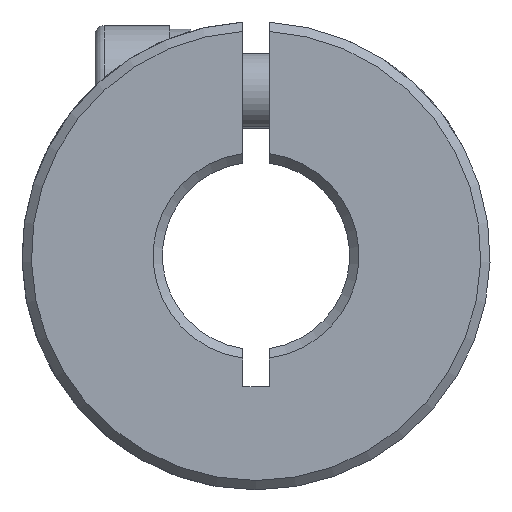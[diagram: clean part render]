
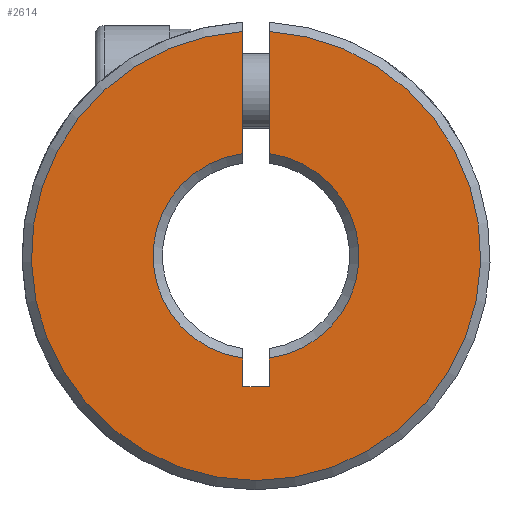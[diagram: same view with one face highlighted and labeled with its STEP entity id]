
A CAD part, front view. The second image highlights one B-rep face of the part: STEP entity #2614.
In plain terms, the highlighted planar face has unit normal (0, -1, 0).
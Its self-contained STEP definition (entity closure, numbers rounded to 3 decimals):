
#89 = EDGE_CURVE ( 'NONE', #1196, #2390, #2652, .T. ) ;
#148 = LINE ( 'NONE', #2956, #2945 ) ;
#192 = FACE_OUTER_BOUND ( 'NONE', #3470, .T. ) ;
#320 = CIRCLE ( 'NONE', #834, 12. ) ;
#327 = CARTESIAN_POINT ( 'NONE',  ( 0., 0.25, 0. ) ) ;
#463 = ORIENTED_EDGE ( 'NONE', *, *, #3365, .T. ) ;
#467 = CARTESIAN_POINT ( 'NONE',  ( 0.7, 0.25, -7. ) ) ;
#571 = DIRECTION ( 'NONE',  ( 0., 0., 1. ) ) ;
#594 = DIRECTION ( 'NONE',  ( 0., 0., -1. ) ) ;
#682 = CARTESIAN_POINT ( 'NONE',  ( 12.5, 0.25, -50. ) ) ;
#742 = ORIENTED_EDGE ( 'NONE', *, *, #89, .F. ) ;
#757 = VECTOR ( 'NONE', #2947, 1000. ) ;
#834 = AXIS2_PLACEMENT_3D ( 'NONE', #3018, #2448, #571 ) ;
#835 = ORIENTED_EDGE ( 'NONE', *, *, #2128, .F. ) ;
#910 = DIRECTION ( 'NONE',  ( 0., 0., 1. ) ) ;
#938 = VECTOR ( 'NONE', #910, 1000. ) ;
#949 = LINE ( 'NONE', #1568, #3437 ) ;
#1088 = DIRECTION ( 'NONE',  ( 0., 0., 1. ) ) ;
#1109 = DIRECTION ( 'NONE',  ( 0., 0., 1. ) ) ;
#1134 = CARTESIAN_POINT ( 'NONE',  ( -0.7, 0.25, -7. ) ) ;
#1156 = EDGE_CURVE ( 'NONE', #3098, #3337, #1574, .T. ) ;
#1180 = ORIENTED_EDGE ( 'NONE', *, *, #1156, .F. ) ;
#1196 = VERTEX_POINT ( 'NONE', #1335 ) ;
#1205 = VECTOR ( 'NONE', #594, 1000. ) ;
#1279 = ORIENTED_EDGE ( 'NONE', *, *, #2464, .F. ) ;
#1335 = CARTESIAN_POINT ( 'NONE',  ( 0.7, 0.25, 5.455 ) ) ;
#1410 = DIRECTION ( 'NONE',  ( 0., 1., 0. ) ) ;
#1420 = AXIS2_PLACEMENT_3D ( 'NONE', #327, #1689, #1109 ) ;
#1538 = DIRECTION ( 'NONE',  ( 0., 1., 0. ) ) ;
#1568 = CARTESIAN_POINT ( 'NONE',  ( 0.7, 0.25, -7. ) ) ;
#1574 = LINE ( 'NONE', #2137, #757 ) ;
#1619 = CARTESIAN_POINT ( 'NONE',  ( -0.7, 0.25, 5.455 ) ) ;
#1689 = DIRECTION ( 'NONE',  ( 0., 1., 0. ) ) ;
#1735 = CARTESIAN_POINT ( 'NONE',  ( -0.7, 0.25, 11.98 ) ) ;
#1779 = ORIENTED_EDGE ( 'NONE', *, *, #3385, .T. ) ;
#1844 = DIRECTION ( 'NONE',  ( 0., 0., 1. ) ) ;
#1849 = DIRECTION ( 'NONE',  ( 1., 0., 0. ) ) ;
#1962 = CARTESIAN_POINT ( 'NONE',  ( -0.7, 0.25, -7. ) ) ;
#2023 = CARTESIAN_POINT ( 'NONE',  ( 0.7, 0.25, -7. ) ) ;
#2128 = EDGE_CURVE ( 'NONE', #3337, #3280, #949, .T. ) ;
#2137 = CARTESIAN_POINT ( 'NONE',  ( -0.7, 0.25, -7. ) ) ;
#2206 = CARTESIAN_POINT ( 'NONE',  ( 0., 0.25, 0. ) ) ;
#2329 = EDGE_CURVE ( 'NONE', #3280, #3480, #148, .T. ) ;
#2353 = CIRCLE ( 'NONE', #1420, 5.5 ) ;
#2390 = VERTEX_POINT ( 'NONE', #2462 ) ;
#2448 = DIRECTION ( 'NONE',  ( 0., -1., 0. ) ) ;
#2462 = CARTESIAN_POINT ( 'NONE',  ( 0.7, 0.25, 11.98 ) ) ;
#2464 = EDGE_CURVE ( 'NONE', #3431, #2821, #2907, .T. ) ;
#2521 = CARTESIAN_POINT ( 'NONE',  ( 0.7, 0.25, -5.455 ) ) ;
#2614 = ADVANCED_FACE ( 'NONE', ( #192 ), #3432, .F. ) ;
#2652 = LINE ( 'NONE', #2023, #938 ) ;
#2663 = AXIS2_PLACEMENT_3D ( 'NONE', #2206, #1410, #2774 ) ;
#2687 = AXIS2_PLACEMENT_3D ( 'NONE', #682, #1538, #1844 ) ;
#2692 = ORIENTED_EDGE ( 'NONE', *, *, #2868, .T. ) ;
#2701 = CIRCLE ( 'NONE', #2663, 5.5 ) ;
#2774 = DIRECTION ( 'NONE',  ( 0., 0., 1. ) ) ;
#2821 = VERTEX_POINT ( 'NONE', #1619 ) ;
#2868 = EDGE_CURVE ( 'NONE', #3431, #2390, #320, .T. ) ;
#2907 = LINE ( 'NONE', #1962, #1205 ) ;
#2945 = VECTOR ( 'NONE', #1088, 1000. ) ;
#2947 = DIRECTION ( 'NONE',  ( 0., 0., -1. ) ) ;
#2956 = CARTESIAN_POINT ( 'NONE',  ( 0.7, 0.25, -7. ) ) ;
#3018 = CARTESIAN_POINT ( 'NONE',  ( 0., 0.25, 0. ) ) ;
#3062 = ORIENTED_EDGE ( 'NONE', *, *, #2329, .F. ) ;
#3098 = VERTEX_POINT ( 'NONE', #3374 ) ;
#3280 = VERTEX_POINT ( 'NONE', #467 ) ;
#3337 = VERTEX_POINT ( 'NONE', #1134 ) ;
#3365 = EDGE_CURVE ( 'NONE', #3098, #2821, #2701, .T. ) ;
#3374 = CARTESIAN_POINT ( 'NONE',  ( -0.7, 0.25, -5.455 ) ) ;
#3385 = EDGE_CURVE ( 'NONE', #1196, #3480, #2353, .T. ) ;
#3431 = VERTEX_POINT ( 'NONE', #1735 ) ;
#3432 = PLANE ( 'NONE',  #2687 ) ;
#3437 = VECTOR ( 'NONE', #1849, 1000. ) ;
#3470 = EDGE_LOOP ( 'NONE', ( #742, #1779, #3062, #835, #1180, #463, #1279, #2692 ) ) ;
#3480 = VERTEX_POINT ( 'NONE', #2521 ) ;
